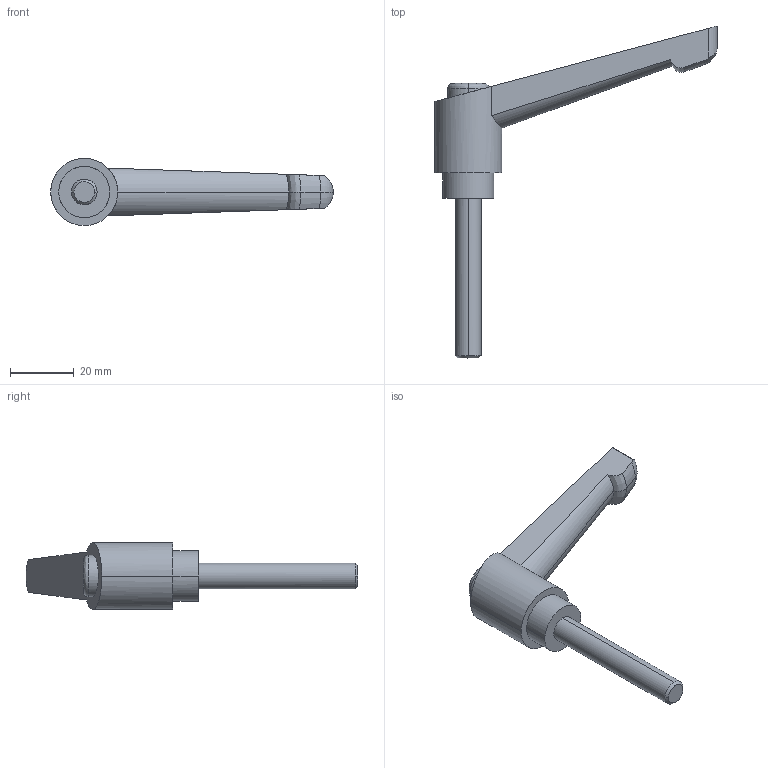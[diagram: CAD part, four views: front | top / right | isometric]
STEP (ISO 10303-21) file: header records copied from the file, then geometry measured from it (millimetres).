
FILE_DESCRIPTION (( 'STEP AP214' ), '1' );
FILE_NAME ('2.9016 Kiinnitysvipu M8 AL L50 ulkokierteellä.STEP', '2025-09-10T08:12:51', ( '' ), ( '' ), 'SwSTEP 2.0', 'SolidWorks 2025', '' );
FILE_SCHEMA (( 'AUTOMOTIVE_DESIGN' ));
Length unit declared in the file: millimetre
Products named in the file (1): 2.9016 Kiinnitysvipu M8 AL L50 ulkokierteellä
Bounding box: 88.5 x 104 x 21 mm (x, y, z)
Volume: 21988 mm3; surface area: 7072.3 mm2
Topology: 1 solids, 1 shells, 55 faces, 139 edges, 88 vertices
Faces by surface type: cylinder 31, cone 11, plane 7, bspline 4, torus 2
Entity records: 2678 total; most frequent: CARTESIAN_POINT 1120, ORIENTED_EDGE 274, DIRECTION 179, EDGE_CURVE 137, VERTEX_POINT 88, AXIS2_PLACEMENT_3D 71, B_SPLINE_CURVE_WITH_KNOTS 69, EDGE_LOOP 59
